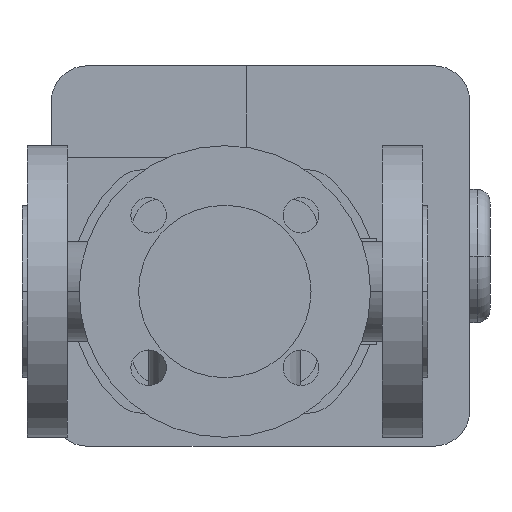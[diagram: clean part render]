
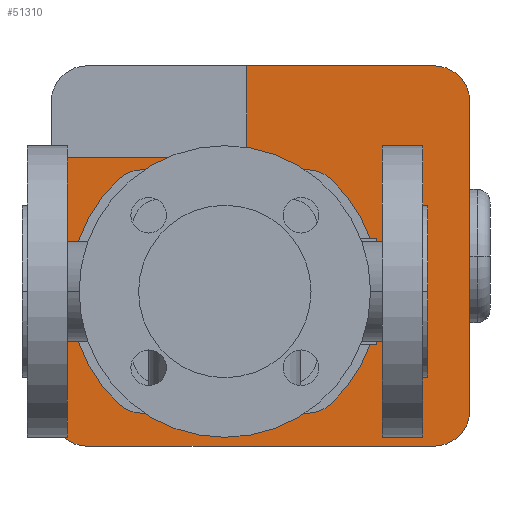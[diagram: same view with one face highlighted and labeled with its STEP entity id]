
A CAD part, front view. The second image highlights one B-rep face of the part: STEP entity #51310.
In plain terms, the highlighted planar face has unit normal (0, -1, 0).
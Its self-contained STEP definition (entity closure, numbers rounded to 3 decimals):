
#40200=CARTESIAN_POINT('',(139.96,317.,11.216));
#40210=VERTEX_POINT('',#40200);
#40240=CARTESIAN_POINT('',(130.,317.,0.));
#40250=DIRECTION('',(0.,1.,0.));
#40260=DIRECTION('',(0.,0.,1.));
#40270=AXIS2_PLACEMENT_3D('',#40240,#40250,#40260);
#40280=CIRCLE('',#40270,15.);
#40290=CARTESIAN_POINT('',(139.96,317.,-11.216));
#40300=VERTEX_POINT('',#40290);
#40310=EDGE_CURVE('',#40210,#40300,#40280,.T.);
#43030=CARTESIAN_POINT('',(122.116,317.,44.128));
#43040=VERTEX_POINT('',#43030);
#43070=CARTESIAN_POINT('',(80.,317.,0.));
#43080=DIRECTION('',(0.,1.,0.));
#43090=DIRECTION('',(0.69,0.,0.723));
#43100=AXIS2_PLACEMENT_3D('',#43070,#43080,#43090);
#43110=CIRCLE('',#43100,61.);
#43120=EDGE_CURVE('',#43040,#40210,#43110,.T.);
#43510=CARTESIAN_POINT('',(20.04,317.,-11.216));
#43520=VERTEX_POINT('',#43510);
#43550=CARTESIAN_POINT('',(30.,317.,0.));
#43560=DIRECTION('',(0.,1.,0.));
#43570=DIRECTION('',(0.,0.,-1.));
#43580=AXIS2_PLACEMENT_3D('',#43550,#43560,#43570);
#43590=CIRCLE('',#43580,15.);
#43600=CARTESIAN_POINT('',(20.04,317.,11.216));
#43610=VERTEX_POINT('',#43600);
#43620=EDGE_CURVE('',#43520,#43610,#43590,.T.);
#44610=CARTESIAN_POINT('',(37.884,317.,-44.128));
#44620=VERTEX_POINT('',#44610);
#44650=CARTESIAN_POINT('',(80.,317.,0.));
#44660=DIRECTION('',(0.,1.,0.));
#44670=DIRECTION('',(-0.69,0.,-0.723));
#44680=AXIS2_PLACEMENT_3D('',#44650,#44660,#44670);
#44690=CIRCLE('',#44680,61.);
#44700=EDGE_CURVE('',#44620,#43520,#44690,.T.);
#47010=CARTESIAN_POINT('',(162.6,317.,-61.));
#47020=VERTEX_POINT('',#47010);
#47070=CARTESIAN_POINT('',(162.6,317.,-47.));
#47080=DIRECTION('',(0.,1.,0.));
#47090=DIRECTION('',(1.,0.,0.));
#47100=AXIS2_PLACEMENT_3D('',#47070,#47080,#47090);
#47110=CIRCLE('',#47100,14.);
#47120=CARTESIAN_POINT('',(176.6,317.,-47.));
#47130=VERTEX_POINT('',#47120);
#47140=EDGE_CURVE('',#47130,#47020,#47110,.T.);
#49870=CARTESIAN_POINT('',(80.,317.,0.));
#49880=DIRECTION('',(0.,1.,0.));
#49890=DIRECTION('',(0.,0.,1.));
#49900=AXIS2_PLACEMENT_3D('',#49870,#49880,#49890);
#49910=PLANE('',#49900);
#49920=ORIENTED_EDGE('',*,*,#43120,.T.);
#49930=CARTESIAN_POINT('',(112.45,317.,34.));
#49940=DIRECTION('',(0.,1.,0.));
#49950=DIRECTION('',(0.,0.,1.));
#49960=AXIS2_PLACEMENT_3D('',#49930,#49940,#49950);
#49970=CIRCLE('',#49960,14.);
#49980=CARTESIAN_POINT('',(112.45,317.,48.));
#49990=VERTEX_POINT('',#49980);
#50000=EDGE_CURVE('',#49990,#43040,#49970,.T.);
#50010=ORIENTED_EDGE('',*,*,#50000,.T.);
#50020=CARTESIAN_POINT('',(63.775,317.,48.));
#50030=DIRECTION('',(1.,0.,0.));
#50040=VECTOR('',#50030,1.);
#50050=LINE('',#50020,#50040);
#50060=CARTESIAN_POINT('',(47.55,317.,48.));
#50070=VERTEX_POINT('',#50060);
#50080=EDGE_CURVE('',#50070,#49990,#50050,.T.);
#50090=ORIENTED_EDGE('',*,*,#50080,.T.);
#50100=CARTESIAN_POINT('',(47.55,317.,34.));
#50110=DIRECTION('',(0.,1.,0.));
#50120=DIRECTION('',(-0.69,0.,0.723));
#50130=AXIS2_PLACEMENT_3D('',#50100,#50110,#50120);
#50140=CIRCLE('',#50130,14.);
#50150=CARTESIAN_POINT('',(37.884,317.,44.128));
#50160=VERTEX_POINT('',#50150);
#50170=EDGE_CURVE('',#50160,#50070,#50140,.T.);
#50180=ORIENTED_EDGE('',*,*,#50170,.T.);
#50190=CARTESIAN_POINT('',(80.,317.,0.));
#50200=DIRECTION('',(0.,1.,0.));
#50210=DIRECTION('',(-0.69,0.,-0.723));
#50220=AXIS2_PLACEMENT_3D('',#50190,#50200,#50210);
#50230=CIRCLE('',#50220,61.);
#50240=EDGE_CURVE('',#43610,#50160,#50230,.T.);
#50250=ORIENTED_EDGE('',*,*,#50240,.T.);
#50260=ORIENTED_EDGE('',*,*,#43620,.T.);
#50270=ORIENTED_EDGE('',*,*,#44700,.T.);
#50280=CARTESIAN_POINT('',(47.55,317.,-34.));
#50290=DIRECTION('',(0.,1.,0.));
#50300=DIRECTION('',(0.,0.,-1.));
#50310=AXIS2_PLACEMENT_3D('',#50280,#50290,#50300);
#50320=CIRCLE('',#50310,14.);
#50330=CARTESIAN_POINT('',(47.55,317.,-48.));
#50340=VERTEX_POINT('',#50330);
#50350=EDGE_CURVE('',#50340,#44620,#50320,.T.);
#50360=ORIENTED_EDGE('',*,*,#50350,.T.);
#50370=CARTESIAN_POINT('',(96.225,317.,-48.));
#50380=DIRECTION('',(-1.,0.,0.));
#50390=VECTOR('',#50380,1.);
#50400=LINE('',#50370,#50390);
#50410=CARTESIAN_POINT('',(112.45,317.,-48.));
#50420=VERTEX_POINT('',#50410);
#50430=EDGE_CURVE('',#50420,#50340,#50400,.T.);
#50440=ORIENTED_EDGE('',*,*,#50430,.T.);
#50450=CARTESIAN_POINT('',(112.45,317.,-34.));
#50460=DIRECTION('',(0.,1.,0.));
#50470=DIRECTION('',(0.69,0.,-0.723));
#50480=AXIS2_PLACEMENT_3D('',#50450,#50460,#50470);
#50490=CIRCLE('',#50480,14.);
#50500=CARTESIAN_POINT('',(122.116,317.,-44.128));
#50510=VERTEX_POINT('',#50500);
#50520=EDGE_CURVE('',#50510,#50420,#50490,.T.);
#50530=ORIENTED_EDGE('',*,*,#50520,.T.);
#50540=CARTESIAN_POINT('',(80.,317.,0.));
#50550=DIRECTION('',(0.,1.,0.));
#50560=DIRECTION('',(0.69,0.,0.723));
#50570=AXIS2_PLACEMENT_3D('',#50540,#50550,#50560);
#50580=CIRCLE('',#50570,61.);
#50590=EDGE_CURVE('',#40300,#50510,#50580,.T.);
#50600=ORIENTED_EDGE('',*,*,#50590,.T.);
#50610=ORIENTED_EDGE('',*,*,#40310,.T.);
#50620=EDGE_LOOP('',(#50610,#50600,#50530,#50440,#50360,#50270,#50260,
#50250,#50180,#50090,#50010,#49920));
#50630=FACE_BOUND('',#50620,.T.);
#50640=CARTESIAN_POINT('',(88.6,317.,26.5));
#50650=DIRECTION('',(0.,0.,-1.));
#50660=VECTOR('',#50650,1.);
#50670=LINE('',#50640,#50660);
#50680=CARTESIAN_POINT('',(88.6,317.,89.));
#50690=VERTEX_POINT('',#50680);
#50700=CARTESIAN_POINT('',(88.6,317.,53.));
#50710=VERTEX_POINT('',#50700);
#50720=EDGE_CURVE('',#50690,#50710,#50670,.T.);
#50730=ORIENTED_EDGE('',*,*,#50720,.T.);
#50740=CARTESIAN_POINT('',(25.6,317.,89.));
#50750=DIRECTION('',(1.,0.,0.));
#50760=VECTOR('',#50750,1.);
#50770=LINE('',#50740,#50760);
#50780=CARTESIAN_POINT('',(162.6,317.,89.));
#50790=VERTEX_POINT('',#50780);
#50800=EDGE_CURVE('',#50690,#50790,#50770,.T.);
#50810=ORIENTED_EDGE('',*,*,#50800,.F.);
#50820=CARTESIAN_POINT('',(162.6,317.,75.));
#50830=DIRECTION('',(0.,1.,0.));
#50840=DIRECTION('',(0.,0.,1.));
#50850=AXIS2_PLACEMENT_3D('',#50820,#50830,#50840);
#50860=CIRCLE('',#50850,14.);
#50870=CARTESIAN_POINT('',(176.6,317.,75.));
#50880=VERTEX_POINT('',#50870);
#50890=EDGE_CURVE('',#50790,#50880,#50860,.T.);
#50900=ORIENTED_EDGE('',*,*,#50890,.F.);
#50910=CARTESIAN_POINT('',(176.6,317.,75.));
#50920=DIRECTION('',(0.,0.,-1.));
#50930=VECTOR('',#50920,1.);
#50940=LINE('',#50910,#50930);
#50950=EDGE_CURVE('',#50880,#47130,#50940,.T.);
#50960=ORIENTED_EDGE('',*,*,#50950,.F.);
#50970=ORIENTED_EDGE('',*,*,#47140,.F.);
#50980=CARTESIAN_POINT('',(162.6,317.,-61.));
#50990=DIRECTION('',(-1.,0.,0.));
#51000=VECTOR('',#50990,1.);
#51010=LINE('',#50980,#51000);
#51020=CARTESIAN_POINT('',(25.6,317.,-61.));
#51030=VERTEX_POINT('',#51020);
#51040=EDGE_CURVE('',#47020,#51030,#51010,.T.);
#51050=ORIENTED_EDGE('',*,*,#51040,.F.);
#51060=CARTESIAN_POINT('',(25.6,317.,-47.));
#51070=DIRECTION('',(0.,1.,0.));
#51080=DIRECTION('',(0.,0.,-1.));
#51090=AXIS2_PLACEMENT_3D('',#51060,#51070,#51080);
#51100=CIRCLE('',#51090,14.);
#51110=CARTESIAN_POINT('',(11.6,317.,-47.));
#51120=VERTEX_POINT('',#51110);
#51130=EDGE_CURVE('',#51030,#51120,#51100,.T.);
#51140=ORIENTED_EDGE('',*,*,#51130,.F.);
#51150=CARTESIAN_POINT('',(11.6,317.,-47.));
#51160=DIRECTION('',(0.,0.,1.));
#51170=VECTOR('',#51160,1.);
#51180=LINE('',#51150,#51170);
#51190=CARTESIAN_POINT('',(11.6,317.,53.));
#51200=VERTEX_POINT('',#51190);
#51210=EDGE_CURVE('',#51120,#51200,#51180,.T.);
#51220=ORIENTED_EDGE('',*,*,#51210,.F.);
#51230=CARTESIAN_POINT('',(45.3,317.,53.));
#51240=DIRECTION('',(-1.,0.,0.));
#51250=VECTOR('',#51240,1.);
#51260=LINE('',#51230,#51250);
#51270=EDGE_CURVE('',#50710,#51200,#51260,.T.);
#51280=ORIENTED_EDGE('',*,*,#51270,.T.);
#51290=EDGE_LOOP('',(#51280,#51220,#51140,#51050,#50970,#50960,#50900,
#50810,#50730));
#51300=FACE_OUTER_BOUND('',#51290,.T.);
#51310=ADVANCED_FACE('',(#50630,#51300),#49910,.F.);
